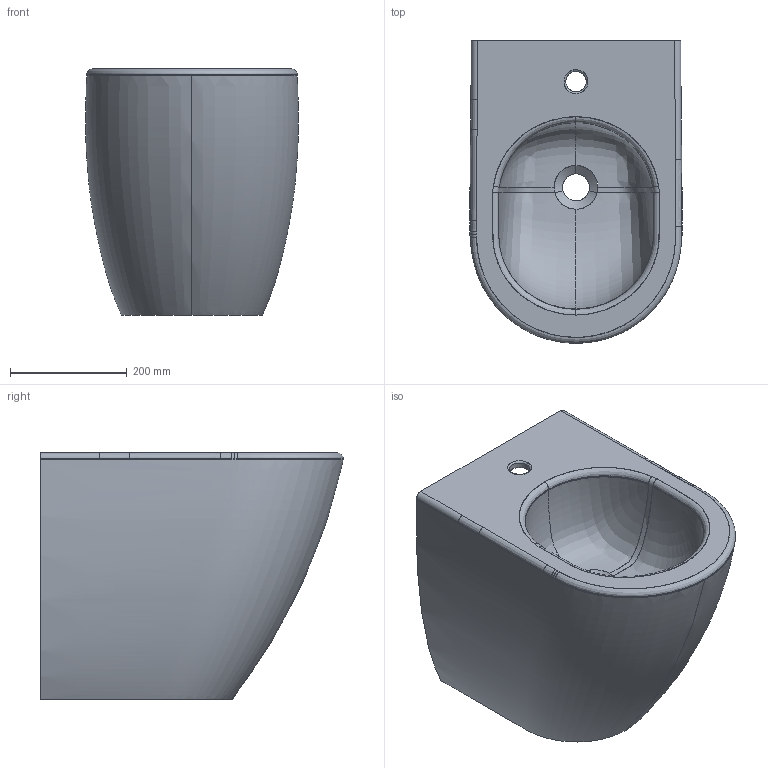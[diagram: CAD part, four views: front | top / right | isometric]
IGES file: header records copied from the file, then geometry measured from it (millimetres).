
Global section: file name: /Volumes/Documenti/lavoro/DATI_archivio 1/SITO ALTHEA CERAMICA/2022/SCHEDE PRODOTTO/COVER RIMLESS PLUSTON/Bidet_COVER_pluston.igs; preprocessor: Trout Lake IGES 012 Jun 21 2016; date: 220428.085937; units: micron
Bounding box: 364.12 x 517.43 x 420.96 mm (x, y, z)
Surface area: 838566.8 mm2 (no closed solid volume)
Topology: 0 solids, 0 shells, 49 faces, 1291 edges, 1291 vertices
Faces by surface type: bspline 49
